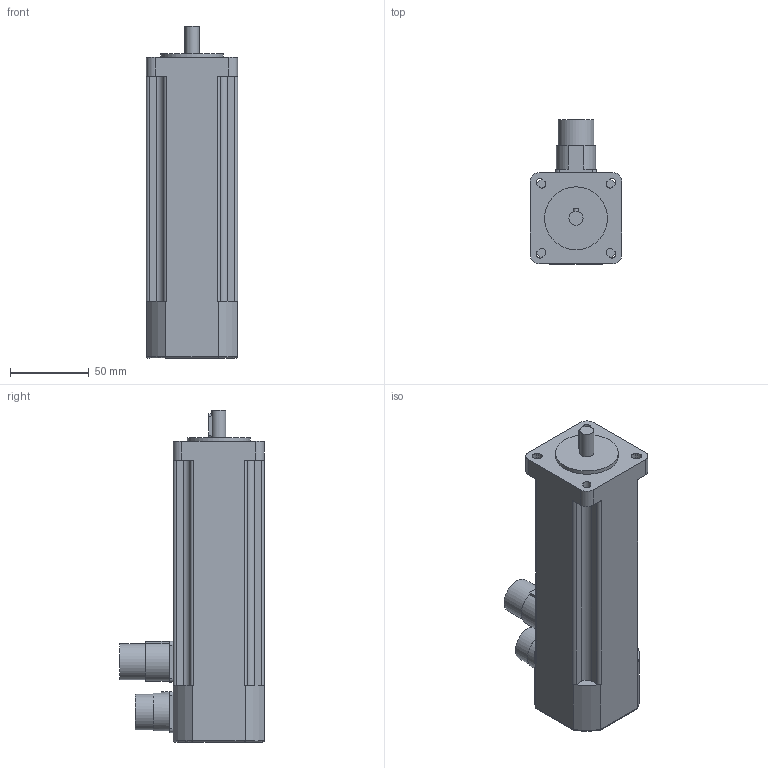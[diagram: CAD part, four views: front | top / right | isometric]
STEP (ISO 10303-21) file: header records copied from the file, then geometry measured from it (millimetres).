
FILE_DESCRIPTION(/* description */ (''),/* implementation_level */ '2;1');
FILE_NAME(/* name */ '\\Lafnas01\disegni\Archivi Lafert\3D\CAD 3D\MODELLI\Assiemi clienti\Serad\Modelli 3D Serad\B28I\Resolver\Res With Brake\B28D8Ixx4B050033.ipt.stp',/* time_stamp */ '2015-09-07T10:48:13+02:00',/* author */ ('Pastrello Ylenia'),/* organization */ (''),/* preprocessor_version */ 'ST-DEVELOPER v15.6',/* originating_system */ 'Autodesk Inventor 2015',/* authorisation */ '');
FILE_SCHEMA (('AUTOMOTIVE_DESIGN { 1 0 10303 214 3 1 1 }'));
Length unit declared in the file: millimetre
Products named in the file (1): B28D8Ixx4B050033
Bounding box: 58 x 92 x 211 mm (x, y, z)
Volume: 594875.9 mm3; surface area: 54615.7 mm2
Topology: 1 solids, 1 shells, 133 faces, 356 edges, 231 vertices
Faces by surface type: plane 71, cylinder 58, torus 4
Full cylindrical faces by diameter (mm): 9 x1, 22.7 x2, 24 x1, 40 x1
Entity records: 4247 total; most frequent: CARTESIAN_POINT 847, DIRECTION 719, ORIENTED_EDGE 696, EDGE_CURVE 347, AXIS2_PLACEMENT_3D 250, VERTEX_POINT 228, LINE 219, VECTOR 219
